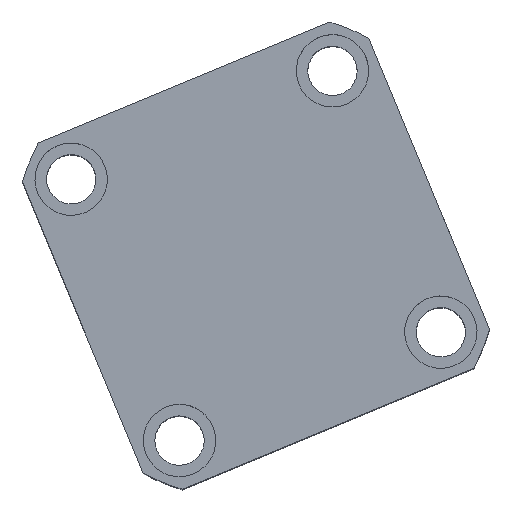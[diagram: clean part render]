
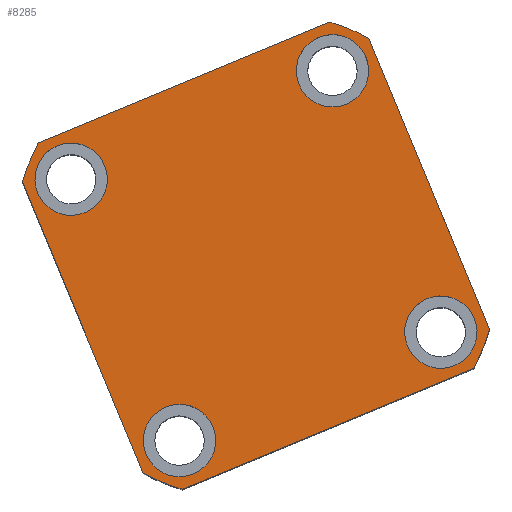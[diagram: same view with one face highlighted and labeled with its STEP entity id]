
A CAD part, top view. The second image highlights one B-rep face of the part: STEP entity #8285.
In plain terms, the highlighted planar face has unit normal (0, 0, 1) as drawn and (0, 0, -1) by its records, which use the part's own axes.
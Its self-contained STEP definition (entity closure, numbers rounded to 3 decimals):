
#74 = VECTOR ( 'NONE', #8080, 1000. ) ;
#229 = EDGE_CURVE ( 'NONE', #5650, #6186, #5761, .T. ) ;
#346 = CARTESIAN_POINT ( 'NONE',  ( -47.971, 57., 0. ) ) ;
#407 = CIRCLE ( 'NONE', #12824, 74.5 ) ;
#512 = DIRECTION ( 'NONE',  ( 0., 0., -1. ) ) ;
#527 = AXIS2_PLACEMENT_3D ( 'NONE', #5369, #13608, #6548 ) ;
#542 = CARTESIAN_POINT ( 'NONE',  ( -57., 47.971, 0. ) ) ;
#578 = CARTESIAN_POINT ( 'NONE',  ( 47.971, -57., 0. ) ) ;
#581 = EDGE_CURVE ( 'NONE', #4462, #12795, #3894, .T. ) ;
#664 = VERTEX_POINT ( 'NONE', #1613 ) ;
#709 = AXIS2_PLACEMENT_3D ( 'NONE', #12115, #5062, #13303 ) ;
#738 = DIRECTION ( 'NONE',  ( 0., 0., 1. ) ) ;
#957 = EDGE_CURVE ( 'NONE', #1185, #6343, #2065, .T. ) ;
#1047 = EDGE_CURVE ( 'NONE', #6343, #1185, #7957, .T. ) ;
#1161 = VECTOR ( 'NONE', #7544, 1000. ) ;
#1168 = VERTEX_POINT ( 'NONE', #2327 ) ;
#1185 = VERTEX_POINT ( 'NONE', #2535 ) ;
#1283 = ORIENTED_EDGE ( 'NONE', *, *, #14251, .F. ) ;
#1310 = AXIS2_PLACEMENT_3D ( 'NONE', #5306, #14748, #7676 ) ;
#1475 = FACE_BOUND ( 'NONE', #4666, .T. ) ;
#1580 = AXIS2_PLACEMENT_3D ( 'NONE', #11932, #4869, #13114 ) ;
#1613 = CARTESIAN_POINT ( 'NONE',  ( 54., -43., 0. ) ) ;
#1720 = ORIENTED_EDGE ( 'NONE', *, *, #7173, .F. ) ;
#1984 = EDGE_CURVE ( 'NONE', #6234, #6884, #6648, .T. ) ;
#2065 = CIRCLE ( 'NONE', #7953, 11. ) ;
#2112 = EDGE_CURVE ( 'NONE', #6884, #6234, #9056, .T. ) ;
#2256 = ORIENTED_EDGE ( 'NONE', *, *, #5254, .F. ) ;
#2273 = EDGE_LOOP ( 'NONE', ( #11576, #14138 ) ) ;
#2327 = CARTESIAN_POINT ( 'NONE',  ( -57., -47.971, 0. ) ) ;
#2495 = CARTESIAN_POINT ( 'NONE',  ( -43., -43., 0. ) ) ;
#2497 = CARTESIAN_POINT ( 'NONE',  ( 57., 47.971, 0. ) ) ;
#2535 = CARTESIAN_POINT ( 'NONE',  ( 32., 43., 0. ) ) ;
#2626 = ORIENTED_EDGE ( 'NONE', *, *, #12158, .F. ) ;
#2671 = VERTEX_POINT ( 'NONE', #6400 ) ;
#3034 = DIRECTION ( 'NONE',  ( 0., -1., 0. ) ) ;
#3256 = DIRECTION ( 'NONE',  ( -1., 0., 0. ) ) ;
#3268 = DIRECTION ( 'NONE',  ( 0., 0., -1. ) ) ;
#3280 = CARTESIAN_POINT ( 'NONE',  ( 43., 43., 0. ) ) ;
#3284 = DIRECTION ( 'NONE',  ( 0., 0., -1. ) ) ;
#3388 = AXIS2_PLACEMENT_3D ( 'NONE', #5347, #13587, #6530 ) ;
#3457 = ORIENTED_EDGE ( 'NONE', *, *, #1984, .F. ) ;
#3529 = CARTESIAN_POINT ( 'NONE',  ( -43., 43., 0. ) ) ;
#3565 = DIRECTION ( 'NONE',  ( -1., 0., 0. ) ) ;
#3570 = DIRECTION ( 'NONE',  ( 0., 0., -1. ) ) ;
#3578 = ORIENTED_EDGE ( 'NONE', *, *, #10181, .F. ) ;
#3606 = CARTESIAN_POINT ( 'NONE',  ( 43., 43., 0. ) ) ;
#3682 = DIRECTION ( 'NONE',  ( -1., 0., 0. ) ) ;
#3894 = LINE ( 'NONE', #12894, #1161 ) ;
#4114 = CARTESIAN_POINT ( 'NONE',  ( 54., 43., 0. ) ) ;
#4243 = VECTOR ( 'NONE', #3034, 1000. ) ;
#4462 = VERTEX_POINT ( 'NONE', #5842 ) ;
#4480 = ORIENTED_EDGE ( 'NONE', *, *, #2112, .F. ) ;
#4666 = EDGE_LOOP ( 'NONE', ( #4480, #3457 ) ) ;
#4686 = CARTESIAN_POINT ( 'NONE',  ( -54., 43., 0. ) ) ;
#4699 = DIRECTION ( 'NONE',  ( -1., 0., 0. ) ) ;
#4869 = DIRECTION ( 'NONE',  ( 0., 0., 1. ) ) ;
#4978 = AXIS2_PLACEMENT_3D ( 'NONE', #10307, #3284, #11508 ) ;
#5062 = DIRECTION ( 'NONE',  ( 0., 0., -1. ) ) ;
#5254 = EDGE_CURVE ( 'NONE', #9469, #4462, #407, .T. ) ;
#5306 = CARTESIAN_POINT ( 'NONE',  ( 0., 0., 0. ) ) ;
#5337 = EDGE_CURVE ( 'NONE', #2671, #9469, #6259, .T. ) ;
#5347 = CARTESIAN_POINT ( 'NONE',  ( 0., 0., 0. ) ) ;
#5354 = EDGE_CURVE ( 'NONE', #14977, #12952, #5906, .T. ) ;
#5369 = CARTESIAN_POINT ( 'NONE',  ( 43., -43., 0. ) ) ;
#5650 = VERTEX_POINT ( 'NONE', #14906 ) ;
#5761 = LINE ( 'NONE', #15043, #9267 ) ;
#5842 = CARTESIAN_POINT ( 'NONE',  ( 57., -47.971, 0. ) ) ;
#5846 = CIRCLE ( 'NONE', #3388, 74.5 ) ;
#5906 = CIRCLE ( 'NONE', #709, 11. ) ;
#6148 = CARTESIAN_POINT ( 'NONE',  ( 0., 0., 0. ) ) ;
#6186 = VERTEX_POINT ( 'NONE', #346 ) ;
#6234 = VERTEX_POINT ( 'NONE', #9722 ) ;
#6259 = LINE ( 'NONE', #12070, #74 ) ;
#6343 = VERTEX_POINT ( 'NONE', #4114 ) ;
#6400 = CARTESIAN_POINT ( 'NONE',  ( -47.971, -57., 0. ) ) ;
#6529 = ORIENTED_EDGE ( 'NONE', *, *, #581, .F. ) ;
#6530 = DIRECTION ( 'NONE',  ( 1., 0., 0. ) ) ;
#6548 = DIRECTION ( 'NONE',  ( -1., 0., 0. ) ) ;
#6648 = CIRCLE ( 'NONE', #4978, 11. ) ;
#6823 = CIRCLE ( 'NONE', #9296, 74.5 ) ;
#6884 = VERTEX_POINT ( 'NONE', #8582 ) ;
#7081 = ORIENTED_EDGE ( 'NONE', *, *, #8314, .F. ) ;
#7173 = EDGE_CURVE ( 'NONE', #1168, #2671, #6823, .T. ) ;
#7232 = ORIENTED_EDGE ( 'NONE', *, *, #8305, .F. ) ;
#7314 = CARTESIAN_POINT ( 'NONE',  ( -32., 43., 0. ) ) ;
#7335 = DIRECTION ( 'NONE',  ( 1., 0., 0. ) ) ;
#7363 = CIRCLE ( 'NONE', #527, 11. ) ;
#7525 = CARTESIAN_POINT ( 'NONE',  ( 43., -43., 0. ) ) ;
#7544 = DIRECTION ( 'NONE',  ( 0., 1., 0. ) ) ;
#7676 = DIRECTION ( 'NONE',  ( 1., 0., 0. ) ) ;
#7710 = VERTEX_POINT ( 'NONE', #542 ) ;
#7733 = FACE_BOUND ( 'NONE', #2273, .T. ) ;
#7754 = CARTESIAN_POINT ( 'NONE',  ( 0., 0., 0. ) ) ;
#7953 = AXIS2_PLACEMENT_3D ( 'NONE', #3606, #3570, #3565 ) ;
#7957 = CIRCLE ( 'NONE', #11896, 11. ) ;
#8080 = DIRECTION ( 'NONE',  ( 1., 0., 0. ) ) ;
#8158 = AXIS2_PLACEMENT_3D ( 'NONE', #2495, #10709, #3682 ) ;
#8285 = ADVANCED_FACE ( 'NONE', ( #1475, #14011, #7733, #13640, #10492 ), #12366, .F. ) ;
#8305 = EDGE_CURVE ( 'NONE', #7710, #1168, #13259, .T. ) ;
#8314 = EDGE_CURVE ( 'NONE', #664, #13507, #7363, .T. ) ;
#8344 = EDGE_LOOP ( 'NONE', ( #3578, #7081 ) ) ;
#8582 = CARTESIAN_POINT ( 'NONE',  ( -54., -43., 0. ) ) ;
#8727 = DIRECTION ( 'NONE',  ( -1., 0., 0. ) ) ;
#8951 = DIRECTION ( 'NONE',  ( 1., 0., 0. ) ) ;
#9056 = CIRCLE ( 'NONE', #8158, 11. ) ;
#9267 = VECTOR ( 'NONE', #13941, 1000. ) ;
#9296 = AXIS2_PLACEMENT_3D ( 'NONE', #7754, #738, #8951 ) ;
#9469 = VERTEX_POINT ( 'NONE', #578 ) ;
#9722 = CARTESIAN_POINT ( 'NONE',  ( -32., -43., 0. ) ) ;
#10046 = CARTESIAN_POINT ( 'NONE',  ( -57., 57., 0. ) ) ;
#10181 = EDGE_CURVE ( 'NONE', #13507, #664, #15127, .T. ) ;
#10270 = CIRCLE ( 'NONE', #1580, 74.5 ) ;
#10307 = CARTESIAN_POINT ( 'NONE',  ( -43., -43., 0. ) ) ;
#10492 = FACE_OUTER_BOUND ( 'NONE', #10560, .T. ) ;
#10560 = EDGE_LOOP ( 'NONE', ( #2626, #6529, #2256, #11099, #1720, #7232, #12080, #10856 ) ) ;
#10709 = DIRECTION ( 'NONE',  ( 0., 0., -1. ) ) ;
#10739 = CARTESIAN_POINT ( 'NONE',  ( 32., -43., 0. ) ) ;
#10856 = ORIENTED_EDGE ( 'NONE', *, *, #229, .F. ) ;
#10987 = EDGE_LOOP ( 'NONE', ( #13182, #1283 ) ) ;
#11099 = ORIENTED_EDGE ( 'NONE', *, *, #5337, .F. ) ;
#11508 = DIRECTION ( 'NONE',  ( -1., 0., 0. ) ) ;
#11576 = ORIENTED_EDGE ( 'NONE', *, *, #957, .F. ) ;
#11759 = DIRECTION ( 'NONE',  ( 0., 0., -1. ) ) ;
#11896 = AXIS2_PLACEMENT_3D ( 'NONE', #3280, #3268, #3256 ) ;
#11932 = CARTESIAN_POINT ( 'NONE',  ( 0., 0., 0. ) ) ;
#12070 = CARTESIAN_POINT ( 'NONE',  ( -57., -57., 0. ) ) ;
#12080 = ORIENTED_EDGE ( 'NONE', *, *, #13189, .F. ) ;
#12115 = CARTESIAN_POINT ( 'NONE',  ( -43., 43., 0. ) ) ;
#12158 = EDGE_CURVE ( 'NONE', #12795, #5650, #10270, .T. ) ;
#12366 = PLANE ( 'NONE',  #1310 ) ;
#12795 = VERTEX_POINT ( 'NONE', #2497 ) ;
#12824 = AXIS2_PLACEMENT_3D ( 'NONE', #6148, #14389, #7335 ) ;
#12894 = CARTESIAN_POINT ( 'NONE',  ( 57., 57., 0. ) ) ;
#12952 = VERTEX_POINT ( 'NONE', #7314 ) ;
#13114 = DIRECTION ( 'NONE',  ( 1., 0., 0. ) ) ;
#13182 = ORIENTED_EDGE ( 'NONE', *, *, #5354, .F. ) ;
#13189 = EDGE_CURVE ( 'NONE', #6186, #7710, #5846, .T. ) ;
#13259 = LINE ( 'NONE', #10046, #4243 ) ;
#13303 = DIRECTION ( 'NONE',  ( -1., 0., 0. ) ) ;
#13329 = AXIS2_PLACEMENT_3D ( 'NONE', #7525, #512, #8727 ) ;
#13507 = VERTEX_POINT ( 'NONE', #10739 ) ;
#13587 = DIRECTION ( 'NONE',  ( 0., 0., 1. ) ) ;
#13608 = DIRECTION ( 'NONE',  ( 0., 0., -1. ) ) ;
#13640 = FACE_BOUND ( 'NONE', #10987, .T. ) ;
#13941 = DIRECTION ( 'NONE',  ( -1., 0., 0. ) ) ;
#14011 = FACE_BOUND ( 'NONE', #8344, .T. ) ;
#14126 = AXIS2_PLACEMENT_3D ( 'NONE', #3529, #11759, #4699 ) ;
#14138 = ORIENTED_EDGE ( 'NONE', *, *, #1047, .F. ) ;
#14251 = EDGE_CURVE ( 'NONE', #12952, #14977, #14500, .T. ) ;
#14389 = DIRECTION ( 'NONE',  ( 0., 0., 1. ) ) ;
#14500 = CIRCLE ( 'NONE', #14126, 11. ) ;
#14748 = DIRECTION ( 'NONE',  ( 0., 0., 1. ) ) ;
#14906 = CARTESIAN_POINT ( 'NONE',  ( 47.971, 57., 0. ) ) ;
#14977 = VERTEX_POINT ( 'NONE', #4686 ) ;
#15043 = CARTESIAN_POINT ( 'NONE',  ( -57., 57., 0. ) ) ;
#15127 = CIRCLE ( 'NONE', #13329, 11. ) ;
